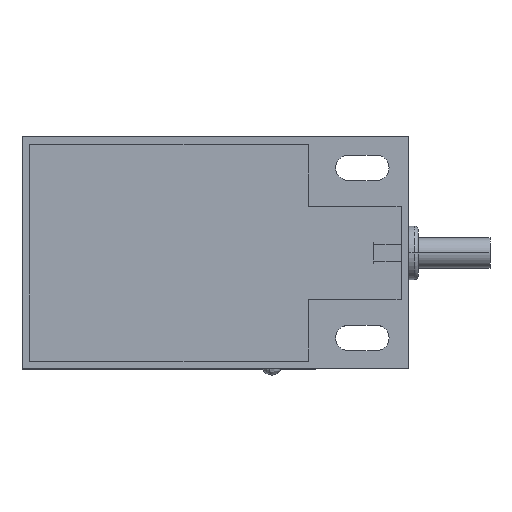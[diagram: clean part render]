
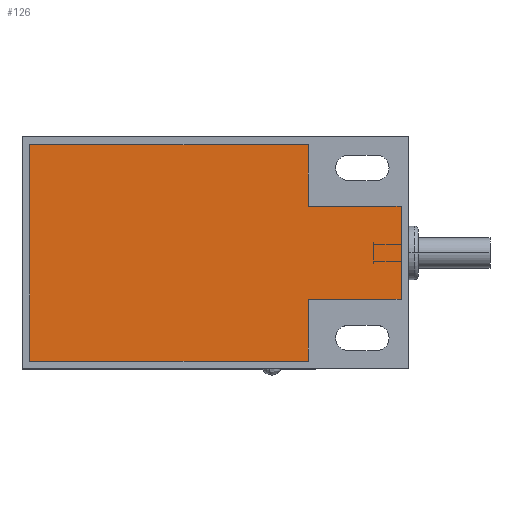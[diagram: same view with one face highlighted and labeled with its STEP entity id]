
A CAD part, top view. The second image highlights one B-rep face of the part: STEP entity #126.
In plain terms, the highlighted planar face has unit normal (0, 0, 1) as drawn and (0, 0, -1) by its records, which use the part's own axes.
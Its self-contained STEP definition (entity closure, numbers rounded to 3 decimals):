
#1 = CARTESIAN_POINT ( 'NONE',  ( 0., 28., 0. ) ) ;
#126 = ADVANCED_FACE ( 'NONE', ( #1382 ), #445, .T. ) ;
#279 = DIRECTION ( 'NONE',  ( -1., 0., 0. ) ) ;
#329 = CARTESIAN_POINT ( 'NONE',  ( -36., 28., 0. ) ) ;
#346 = CARTESIAN_POINT ( 'NONE',  ( -36., 20., 0. ) ) ;
#406 = CARTESIAN_POINT ( 'NONE',  ( -48., 20., 0. ) ) ;
#445 = PLANE ( 'NONE',  #2671 ) ;
#465 = LINE ( 'NONE', #406, #1085 ) ;
#488 = ORIENTED_EDGE ( 'NONE', *, *, #4761, .F. ) ;
#529 = LINE ( 'NONE', #2176, #1337 ) ;
#670 = ORIENTED_EDGE ( 'NONE', *, *, #5127, .F. ) ;
#780 = ORIENTED_EDGE ( 'NONE', *, *, #5025, .F. ) ;
#817 = EDGE_CURVE ( 'NONE', #3001, #844, #4082, .T. ) ;
#844 = VERTEX_POINT ( 'NONE', #2008 ) ;
#866 = CARTESIAN_POINT ( 'NONE',  ( 0., 0., 0. ) ) ;
#933 = EDGE_CURVE ( 'NONE', #4074, #4344, #4847, .T. ) ;
#1030 = ORIENTED_EDGE ( 'NONE', *, *, #817, .F. ) ;
#1045 = CARTESIAN_POINT ( 'NONE',  ( 0., 0., 0. ) ) ;
#1085 = VECTOR ( 'NONE', #1287, 1000. ) ;
#1287 = DIRECTION ( 'NONE',  ( -1., 0., 0. ) ) ;
#1318 = EDGE_CURVE ( 'NONE', #3560, #3001, #3170, .T. ) ;
#1337 = VECTOR ( 'NONE', #4008, 1000. ) ;
#1382 = FACE_OUTER_BOUND ( 'NONE', #4161, .T. ) ;
#1484 = DIRECTION ( 'NONE',  ( 0., -1., 0. ) ) ;
#1508 = LINE ( 'NONE', #2697, #5335 ) ;
#1535 = CARTESIAN_POINT ( 'NONE',  ( -36., 0., 0. ) ) ;
#1555 = DIRECTION ( 'NONE',  ( 1., 0., 0. ) ) ;
#1661 = DIRECTION ( 'NONE',  ( 0., 1., 0. ) ) ;
#1761 = VECTOR ( 'NONE', #4092, 1000. ) ;
#2008 = CARTESIAN_POINT ( 'NONE',  ( -36., 0., 0. ) ) ;
#2034 = CARTESIAN_POINT ( 'NONE',  ( -48., 20., 0. ) ) ;
#2176 = CARTESIAN_POINT ( 'NONE',  ( 0., 0., 0. ) ) ;
#2209 = EDGE_CURVE ( 'NONE', #4344, #3376, #1508, .T. ) ;
#2238 = DIRECTION ( 'NONE',  ( -1., 0., 0. ) ) ;
#2504 = CARTESIAN_POINT ( 'NONE',  ( -48., 8., 0. ) ) ;
#2537 = VECTOR ( 'NONE', #1661, 1000. ) ;
#2562 = LINE ( 'NONE', #2504, #1761 ) ;
#2671 = AXIS2_PLACEMENT_3D ( 'NONE', #866, #4205, #2238 ) ;
#2697 = CARTESIAN_POINT ( 'NONE',  ( -36., 20., 0. ) ) ;
#2743 = CARTESIAN_POINT ( 'NONE',  ( -36., 8., 0. ) ) ;
#2748 = DIRECTION ( 'NONE',  ( 0., -1., 0. ) ) ;
#2883 = VECTOR ( 'NONE', #1555, 1000. ) ;
#3001 = VERTEX_POINT ( 'NONE', #3701 ) ;
#3014 = VECTOR ( 'NONE', #279, 1000. ) ;
#3118 = VERTEX_POINT ( 'NONE', #1045 ) ;
#3170 = LINE ( 'NONE', #2743, #2883 ) ;
#3274 = LINE ( 'NONE', #1, #2537 ) ;
#3376 = VERTEX_POINT ( 'NONE', #346 ) ;
#3542 = ORIENTED_EDGE ( 'NONE', *, *, #5200, .F. ) ;
#3560 = VERTEX_POINT ( 'NONE', #5080 ) ;
#3701 = CARTESIAN_POINT ( 'NONE',  ( -36., 8., 0. ) ) ;
#3891 = ORIENTED_EDGE ( 'NONE', *, *, #2209, .F. ) ;
#3919 = ORIENTED_EDGE ( 'NONE', *, *, #933, .F. ) ;
#4008 = DIRECTION ( 'NONE',  ( 1., 0., 0. ) ) ;
#4074 = VERTEX_POINT ( 'NONE', #4668 ) ;
#4082 = LINE ( 'NONE', #1535, #5339 ) ;
#4092 = DIRECTION ( 'NONE',  ( 0., -1., 0. ) ) ;
#4154 = CARTESIAN_POINT ( 'NONE',  ( -36., 28., 0. ) ) ;
#4161 = EDGE_LOOP ( 'NONE', ( #488, #3542, #3891, #3919, #670, #780, #1030, #5044 ) ) ;
#4205 = DIRECTION ( 'NONE',  ( 0., 0., -1. ) ) ;
#4344 = VERTEX_POINT ( 'NONE', #4154 ) ;
#4668 = CARTESIAN_POINT ( 'NONE',  ( 0., 28., 0. ) ) ;
#4761 = EDGE_CURVE ( 'NONE', #5250, #3560, #2562, .T. ) ;
#4847 = LINE ( 'NONE', #329, #3014 ) ;
#5025 = EDGE_CURVE ( 'NONE', #844, #3118, #529, .T. ) ;
#5044 = ORIENTED_EDGE ( 'NONE', *, *, #1318, .F. ) ;
#5080 = CARTESIAN_POINT ( 'NONE',  ( -48., 8., 0. ) ) ;
#5127 = EDGE_CURVE ( 'NONE', #3118, #4074, #3274, .T. ) ;
#5200 = EDGE_CURVE ( 'NONE', #3376, #5250, #465, .T. ) ;
#5250 = VERTEX_POINT ( 'NONE', #2034 ) ;
#5335 = VECTOR ( 'NONE', #1484, 1000. ) ;
#5339 = VECTOR ( 'NONE', #2748, 1000. ) ;
